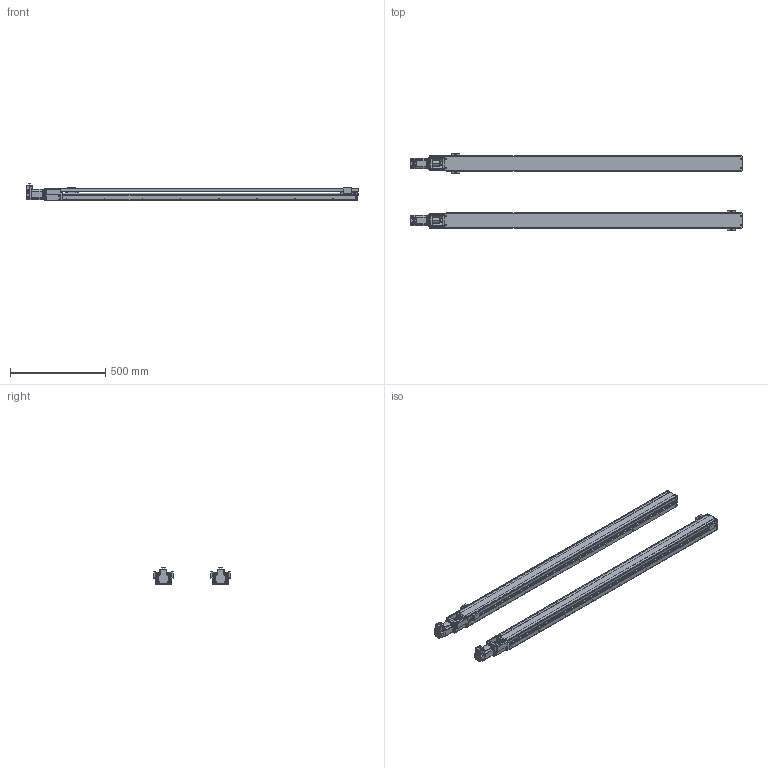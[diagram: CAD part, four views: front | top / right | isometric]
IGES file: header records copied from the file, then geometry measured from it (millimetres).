
Start section: IMSI TurboCAD v14.0
Global section: author: NULL; organization: NULL; date: 20111226.144821; units: millimetre
Bounding box: 1745.01 x 404 x 91.47 mm (x, y, z)
Surface area: 1995394.2 mm2 (no closed solid volume)
Topology: 0 solids, 0 shells, 4932 faces, 24778 edges, 24716 vertices
Faces by surface type: revolution 2908, extrusion 1864, bspline 160
